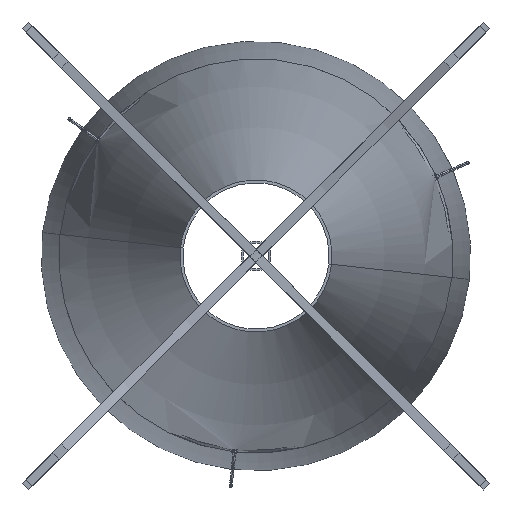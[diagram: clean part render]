
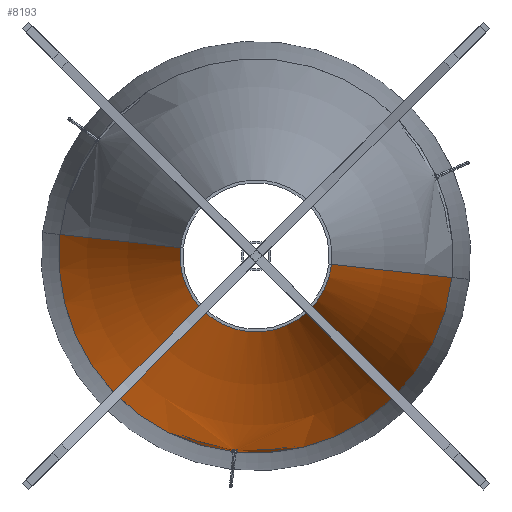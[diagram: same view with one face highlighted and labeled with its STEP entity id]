
A CAD part, front view. The second image highlights one B-rep face of the part: STEP entity #8193.
In plain terms, the highlighted toroidal (fillet/blend) face has major radius 2425.38 mm and minor radius 2541.65 mm.
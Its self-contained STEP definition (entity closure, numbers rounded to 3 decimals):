
#139 = CARTESIAN_POINT ( 'NONE',  ( -12.425, 725.872, -104.264 ) ) ;
#316 = CARTESIAN_POINT ( 'NONE',  ( -12.379, 728.199, -104.49 ) ) ;
#473 = EDGE_LOOP ( 'NONE', ( #6735, #13749 ) ) ;
#536 = AXIS2_PLACEMENT_3D ( 'NONE', #2685, #6883, #11526 ) ;
#730 = CARTESIAN_POINT ( 'NONE',  ( -9.993, 726.608, -104.595 ) ) ;
#798 = CARTESIAN_POINT ( 'NONE',  ( -12.099, 725.653, -104.282 ) ) ;
#852 = VERTEX_POINT ( 'NONE', #4398 ) ;
#982 = EDGE_LOOP ( 'NONE', ( #12790, #5734, #2695, #3343 ) ) ;
#1186 = VERTEX_POINT ( 'NONE', #1499 ) ;
#1200 = CARTESIAN_POINT ( 'NONE',  ( -12.633, 726.079, -104.259 ) ) ;
#1441 = CARTESIAN_POINT ( 'NONE',  ( -11.268, 728.49, -104.643 ) ) ;
#1456 = FACE_BOUND ( 'NONE', #473, .T. ) ;
#1499 = CARTESIAN_POINT ( 'NONE',  ( -12.94, 727., -104.309 ) ) ;
#1504 = DIRECTION ( 'NONE',  ( -0.994, 0., 0.109 ) ) ;
#1518 = CARTESIAN_POINT ( 'NONE',  ( -10.01, 727.389, -104.667 ) ) ;
#1597 = CARTESIAN_POINT ( 'NONE',  ( -12.654, 727.919, -104.431 ) ) ;
#1973 = B_SPLINE_CURVE_WITH_KNOTS ( 'NONE', 3,
 ( #7219, #10643, #730, #12990, #3082, #8439, #6139, #11783, #6288, #7431, #9618, #9754, #14129, #5178, #10717, #798, #8506, #13257, #139, #1200, #11990, #2358, #3215, #8934 ),
 .UNSPECIFIED., .F., .F.,
 ( 4, 2, 2, 2, 2, 2, 2, 2, 2, 2, 2, 4 ),
 ( 0.003, 0.004, 0.004, 0.005, 0.005, 0.006, 0.006, 0.006, 0.006, 0.007, 0.007, 0.008 ),
 .UNSPECIFIED. ) ;
#2113 = CIRCLE ( 'NONE', #10914, 2541.655 ) ;
#2172 = B_SPLINE_CURVE_WITH_KNOTS ( 'NONE', 3,
 ( #7938, #10444, #5785, #3689, #6938, #6082, #1597, #316, #12368, #8016, #4845, #4679, #1441, #11596, #4608, #9109, #13519, #4761, #13603, #9272, #12510, #7013, #1518, #5926, #10365, #13675 ),
 .UNSPECIFIED., .F., .F.,
 ( 4, 2, 2, 2, 2, 2, 2, 2, 2, 2, 2, 2, 4 ),
 ( 0.008, 0.008, 0.009, 0.009, 0.01, 0.01, 0.011, 0.011, 0.011, 0.012, 0.012, 0.012, 0.013 ),
 .UNSPECIFIED. ) ;
#2236 = CARTESIAN_POINT ( 'NONE',  ( 0., 734., 0. ) ) ;
#2358 = CARTESIAN_POINT ( 'NONE',  ( -12.897, 726.608, -104.277 ) ) ;
#2506 = CARTESIAN_POINT ( 'NONE',  ( 0., 350., 0. ) ) ;
#2685 = CARTESIAN_POINT ( 'NONE',  ( 0., 964.97, 0. ) ) ;
#2695 = ORIENTED_EDGE ( 'NONE', *, *, #9698, .T. ) ;
#2907 = CARTESIAN_POINT ( 'NONE',  ( -40.511, 350., 4.44 ) ) ;
#3082 = CARTESIAN_POINT ( 'NONE',  ( -10.247, 726.08, -104.52 ) ) ;
#3215 = CARTESIAN_POINT ( 'NONE',  ( -12.938, 726.805, -104.29 ) ) ;
#3231 = DIRECTION ( 'NONE',  ( -0.994, 0., 0.109 ) ) ;
#3343 = ORIENTED_EDGE ( 'NONE', *, *, #12728, .F. ) ;
#3689 = CARTESIAN_POINT ( 'NONE',  ( -12.897, 727.389, -104.351 ) ) ;
#3792 = AXIS2_PLACEMENT_3D ( 'NONE', #2506, #12482, #10261 ) ;
#3994 = AXIS2_PLACEMENT_3D ( 'NONE', #2236, #14142, #3231 ) ;
#4054 = EDGE_CURVE ( 'NONE', #10616, #852, #2113, .T. ) ;
#4138 = CIRCLE ( 'NONE', #11303, 2541.655 ) ;
#4398 = CARTESIAN_POINT ( 'NONE',  ( 105.127, 734., -11.521 ) ) ;
#4533 = DIRECTION ( 'NONE',  ( -0.109, 0., -0.994 ) ) ;
#4608 = CARTESIAN_POINT ( 'NONE',  ( -10.983, 728.423, -104.667 ) ) ;
#4672 = CIRCLE ( 'NONE', #3792, 40.753 ) ;
#4679 = CARTESIAN_POINT ( 'NONE',  ( -11.368, 728.5, -104.633 ) ) ;
#4700 = VERTEX_POINT ( 'NONE', #11409 ) ;
#4761 = CARTESIAN_POINT ( 'NONE',  ( -10.335, 727.989, -104.692 ) ) ;
#4845 = CARTESIAN_POINT ( 'NONE',  ( -11.66, 728.5, -104.601 ) ) ;
#5178 = CARTESIAN_POINT ( 'NONE',  ( -11.822, 725.548, -104.303 ) ) ;
#5243 = CARTESIAN_POINT ( 'NONE',  ( -2410.947, 964.97, 264.218 ) ) ;
#5248 = EDGE_CURVE ( 'NONE', #1186, #10419, #2172, .T. ) ;
#5734 = ORIENTED_EDGE ( 'NONE', *, *, #14215, .T. ) ;
#5785 = CARTESIAN_POINT ( 'NONE',  ( -12.933, 727.197, -104.328 ) ) ;
#5926 = CARTESIAN_POINT ( 'NONE',  ( -9.97, 727.196, -104.653 ) ) ;
#6082 = CARTESIAN_POINT ( 'NONE',  ( -12.761, 727.754, -104.402 ) ) ;
#6139 = CARTESIAN_POINT ( 'NONE',  ( -10.527, 725.808, -104.467 ) ) ;
#6288 = CARTESIAN_POINT ( 'NONE',  ( -10.774, 725.653, -104.427 ) ) ;
#6735 = ORIENTED_EDGE ( 'NONE', *, *, #5248, .F. ) ;
#6883 = DIRECTION ( 'NONE',  ( 0., 1., 0. ) ) ;
#6938 = CARTESIAN_POINT ( 'NONE',  ( -12.87, 727.482, -104.363 ) ) ;
#6976 = TOROIDAL_SURFACE ( 'NONE', #536, -2425.382, 2541.655 ) ;
#7013 = CARTESIAN_POINT ( 'NONE',  ( -10.039, 727.482, -104.673 ) ) ;
#7219 = CARTESIAN_POINT ( 'NONE',  ( -9.958, 727., -104.635 ) ) ;
#7431 = CARTESIAN_POINT ( 'NONE',  ( -11.044, 725.539, -104.388 ) ) ;
#7938 = CARTESIAN_POINT ( 'NONE',  ( -12.94, 727., -104.309 ) ) ;
#7989 = EDGE_CURVE ( 'NONE', #10419, #1186, #1973, .T. ) ;
#8016 = CARTESIAN_POINT ( 'NONE',  ( -11.856, 728.461, -104.575 ) ) ;
#8193 = ADVANCED_FACE ( 'NONE', ( #9204, #1456 ), #6976, .T. ) ;
#8439 = CARTESIAN_POINT ( 'NONE',  ( -10.451, 725.871, -104.48 ) ) ;
#8506 = CARTESIAN_POINT ( 'NONE',  ( -12.185, 725.699, -104.276 ) ) ;
#8934 = CARTESIAN_POINT ( 'NONE',  ( -12.94, 727., -104.309 ) ) ;
#9061 = CIRCLE ( 'NONE', #3994, 105.757 ) ;
#9109 = CARTESIAN_POINT ( 'NONE',  ( -10.71, 728.309, -104.685 ) ) ;
#9204 = FACE_OUTER_BOUND ( 'NONE', #982, .T. ) ;
#9272 = CARTESIAN_POINT ( 'NONE',  ( -10.163, 727.751, -104.687 ) ) ;
#9618 = CARTESIAN_POINT ( 'NONE',  ( -11.238, 725.5, -104.363 ) ) ;
#9698 = EDGE_CURVE ( 'NONE', #11875, #4700, #4138, .T. ) ;
#9754 = CARTESIAN_POINT ( 'NONE',  ( -11.534, 725.5, -104.331 ) ) ;
#10045 = CARTESIAN_POINT ( 'NONE',  ( -9.958, 727., -104.635 ) ) ;
#10261 = DIRECTION ( 'NONE',  ( -0.994, 0., 0.109 ) ) ;
#10365 = CARTESIAN_POINT ( 'NONE',  ( -9.959, 727.098, -104.644 ) ) ;
#10419 = VERTEX_POINT ( 'NONE', #10045 ) ;
#10444 = CARTESIAN_POINT ( 'NONE',  ( -12.941, 727.098, -104.318 ) ) ;
#10616 = VERTEX_POINT ( 'NONE', #10850 ) ;
#10643 = CARTESIAN_POINT ( 'NONE',  ( -9.956, 726.805, -104.617 ) ) ;
#10717 = CARTESIAN_POINT ( 'NONE',  ( -11.917, 725.577, -104.295 ) ) ;
#10850 = CARTESIAN_POINT ( 'NONE',  ( 40.511, 350., -4.44 ) ) ;
#10914 = AXIS2_PLACEMENT_3D ( 'NONE', #5243, #14051, #12984 ) ;
#11285 = CARTESIAN_POINT ( 'NONE',  ( 2410.947, 964.97, -264.218 ) ) ;
#11303 = AXIS2_PLACEMENT_3D ( 'NONE', #11285, #4533, #1504 ) ;
#11409 = CARTESIAN_POINT ( 'NONE',  ( -105.127, 734., 11.521 ) ) ;
#11526 = DIRECTION ( 'NONE',  ( -0.994, 0., 0.109 ) ) ;
#11596 = CARTESIAN_POINT ( 'NONE',  ( -11.077, 728.452, -104.66 ) ) ;
#11783 = CARTESIAN_POINT ( 'NONE',  ( -10.688, 725.699, -104.44 ) ) ;
#11875 = VERTEX_POINT ( 'NONE', #2907 ) ;
#11990 = CARTESIAN_POINT ( 'NONE',  ( -12.746, 726.247, -104.261 ) ) ;
#12368 = CARTESIAN_POINT ( 'NONE',  ( -12.214, 728.311, -104.52 ) ) ;
#12482 = DIRECTION ( 'NONE',  ( 0., 1., 0. ) ) ;
#12510 = CARTESIAN_POINT ( 'NONE',  ( -10.115, 727.663, -104.683 ) ) ;
#12728 = EDGE_CURVE ( 'NONE', #852, #4700, #9061, .T. ) ;
#12790 = ORIENTED_EDGE ( 'NONE', *, *, #4054, .F. ) ;
#12984 = DIRECTION ( 'NONE',  ( 0.994, 0., -0.109 ) ) ;
#12990 = CARTESIAN_POINT ( 'NONE',  ( -10.138, 726.247, -104.547 ) ) ;
#13257 = CARTESIAN_POINT ( 'NONE',  ( -12.348, 725.808, -104.267 ) ) ;
#13519 = CARTESIAN_POINT ( 'NONE',  ( -10.545, 728.199, -104.691 ) ) ;
#13603 = CARTESIAN_POINT ( 'NONE',  ( -10.272, 727.913, -104.691 ) ) ;
#13675 = CARTESIAN_POINT ( 'NONE',  ( -9.958, 727., -104.635 ) ) ;
#13749 = ORIENTED_EDGE ( 'NONE', *, *, #7989, .F. ) ;
#14051 = DIRECTION ( 'NONE',  ( 0.109, 0., 0.994 ) ) ;
#14129 = CARTESIAN_POINT ( 'NONE',  ( -11.631, 725.51, -104.321 ) ) ;
#14142 = DIRECTION ( 'NONE',  ( 0., 1., 0. ) ) ;
#14215 = EDGE_CURVE ( 'NONE', #10616, #11875, #4672, .T. ) ;
